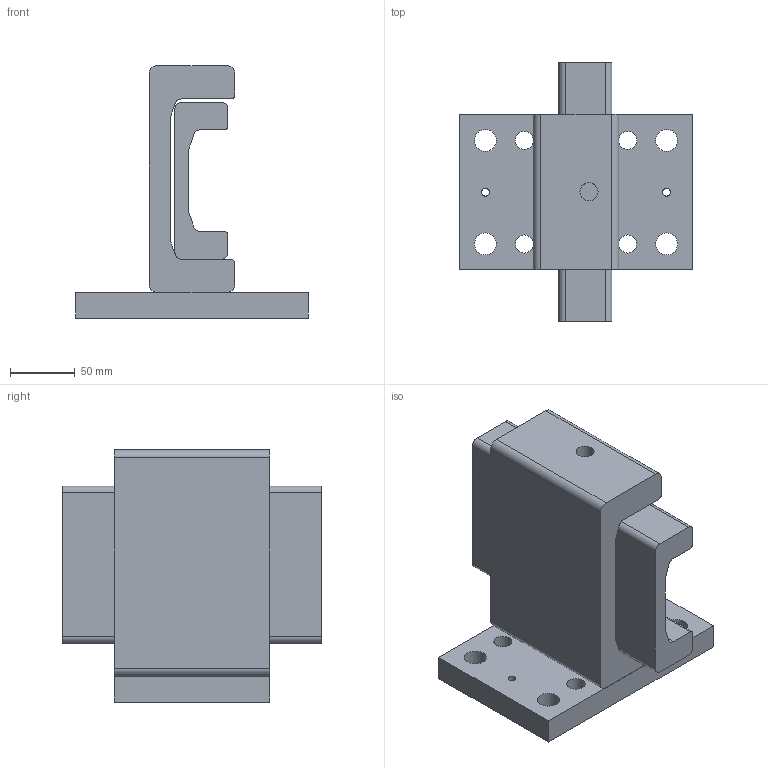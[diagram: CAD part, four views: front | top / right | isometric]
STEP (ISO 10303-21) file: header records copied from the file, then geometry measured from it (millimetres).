
FILE_DESCRIPTION(/* description */ (''),/* implementation_level */ '2;1');
FILE_NAME(/* name */ '5.9110 SP.step',/* time_stamp */ '2025-10-16T12:57:11+02:00',/* author */ (''),/* organization */ (''),/* preprocessor_version */ 'ST-DEVELOPER v20.1',/* originating_system */ 'Autodesk Translation Framework v14.17.0.0',/* authorisation */ '');
FILE_SCHEMA (('AUTOMOTIVE_DESIGN { 1 0 10303 214 3 1 1 }'));
Length unit declared in the file: millimetre
Products named in the file (3): 5.9110/SP; 2891x120; 2810x200
Assembly tree (2 placements, depth 2):
  5.9110/SP
    2891x120
    2810x200
Bounding box: 180 x 200 x 195 mm (x, y, z)
Volume: 1522869.1 mm3; surface area: 215516.9 mm2
Topology: 3 solids, 3 shells, 58 faces, 156 edges, 104 vertices
Faces by surface type: plane 30, cylinder 28
Full cylindrical faces by diameter (mm): 6 x2, 14.023 x5, 17 x4, 60 x1
Entity records: 1970 total; most frequent: DIRECTION 338, CARTESIAN_POINT 323, ORIENTED_EDGE 312, EDGE_CURVE 156, AXIS2_PLACEMENT_3D 119, VERTEX_POINT 104, LINE 100, VECTOR 100
